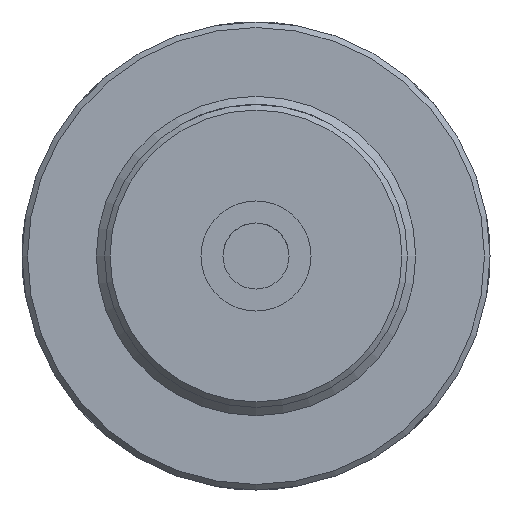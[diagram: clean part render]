
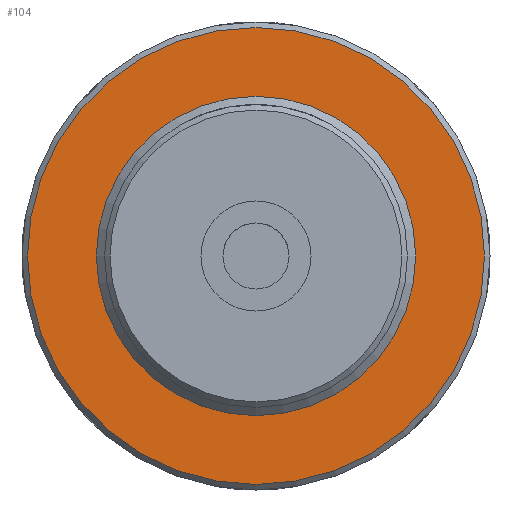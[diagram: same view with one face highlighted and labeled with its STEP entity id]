
A CAD part, left-side view. The second image highlights one B-rep face of the part: STEP entity #104.
In plain terms, the highlighted planar face has unit normal (-1, 0, 0).
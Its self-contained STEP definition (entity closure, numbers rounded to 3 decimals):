
#104 = ADVANCED_FACE( '', ( #217, #218 ), #219, .T. );
#217 = FACE_OUTER_BOUND( '', #361, .T. );
#218 = FACE_BOUND( '', #362, .T. );
#219 = PLANE( '', #363 );
#361 = EDGE_LOOP( '', ( #565 ) );
#362 = EDGE_LOOP( '', ( #566 ) );
#363 = AXIS2_PLACEMENT_3D( '', #567, #568, #569 );
#565 = ORIENTED_EDGE( '', *, *, #689, .T. );
#566 = ORIENTED_EDGE( '', *, *, #677, .T. );
#567 = CARTESIAN_POINT( '', ( 43., 0., 29. ) );
#568 = DIRECTION( '', ( -1., 0., 0. ) );
#569 = DIRECTION( '', ( 0., 0., 1. ) );
#677 = EDGE_CURVE( '', #760, #760, #761, .F. );
#689 = EDGE_CURVE( '', #782, #782, #783, .T. );
#760 = VERTEX_POINT( '', #1074 );
#761 = CIRCLE( '', #1075, 29. );
#782 = VERTEX_POINT( '', #1486 );
#783 = CIRCLE( '', #1487, 41.5 );
#1074 = CARTESIAN_POINT( '', ( 43., 0., 29. ) );
#1075 = AXIS2_PLACEMENT_3D( '', #1577, #1578, #1579 );
#1486 = CARTESIAN_POINT( '', ( 43., 0., 41.5 ) );
#1487 = AXIS2_PLACEMENT_3D( '', #1592, #1593, #1594 );
#1577 = CARTESIAN_POINT( '', ( 43., 0., 0. ) );
#1578 = DIRECTION( '', ( -1., 0., 0. ) );
#1579 = DIRECTION( '', ( 0., 0., 1. ) );
#1592 = CARTESIAN_POINT( '', ( 43., 0., 0. ) );
#1593 = DIRECTION( '', ( -1., 0., 0. ) );
#1594 = DIRECTION( '', ( 0., 0., 1. ) );
